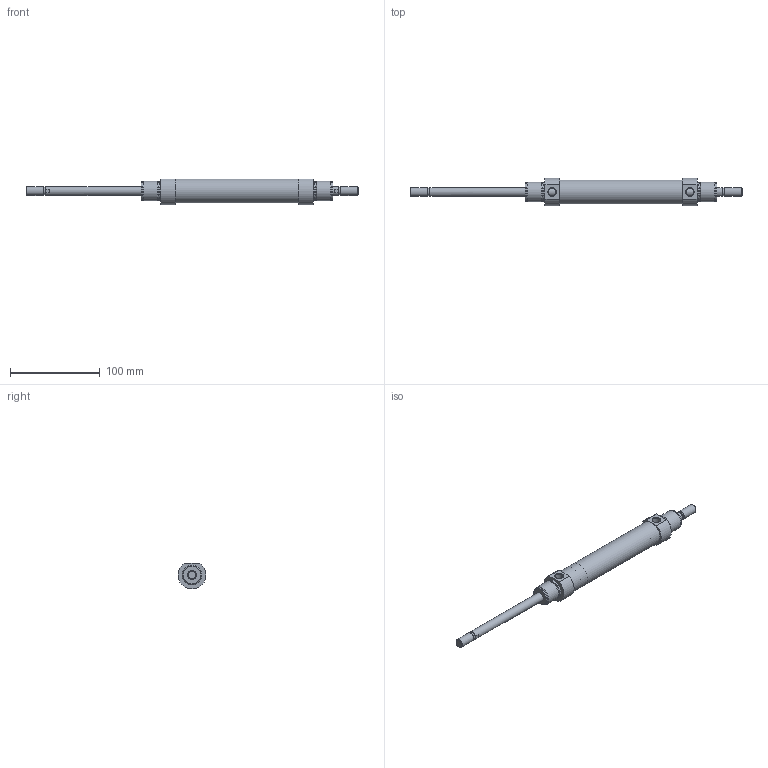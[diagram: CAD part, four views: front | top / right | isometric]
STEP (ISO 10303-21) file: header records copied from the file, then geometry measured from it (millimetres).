
FILE_DESCRIPTION( ( 'STEP AP203' ), '1' );
FILE_NAME( '//expscmdclustefs.cadenas.external/client_exchange/iodir/jobs/output/wkb68465132_no0/STEP/M101-025-0100--__0__2_03.stp', ' ', ( ' ' ), ( ' ' ), 'PSStep 15.0.47', 'PARTsolutions', ' ' );
FILE_SCHEMA( ( 'CONFIG_CONTROL_DESIGN' ) );
Length unit declared in the file: millimetre
Products named in the file (3): M101-025-0100-- [0]; HI_M101-025-0100---[0]-z; HI_M101-025-0100---[0]-k
Assembly tree (2 placements, depth 2):
  M101-025-0100-- [0]
    HI_M101-025-0100---[0]-z
    HI_M101-025-0100---[0]-k
Bounding box: 369 x 31 x 28.79 mm (x, y, z)
Volume: 85609.1 mm3; surface area: 45258.2 mm2
Topology: 2 solids, 2 shells, 63 faces, 123 edges, 74 vertices
Faces by surface type: plane 28, cylinder 23, cone 10, torus 2
Full cylindrical faces by diameter (mm): 8.16 x2, 8.566 x2, 10 x6, 20.16 x4, 22 x4, 25 x2, 26.6 x1
Entity records: 1700 total; most frequent: CARTESIAN_POINT 390, DIRECTION 276, ORIENTED_EDGE 176, AXIS2_PLACEMENT_3D 124, EDGE_LOOP 112, EDGE_CURVE 88, FACE_OUTER_BOUND 86, VERTEX_POINT 72
